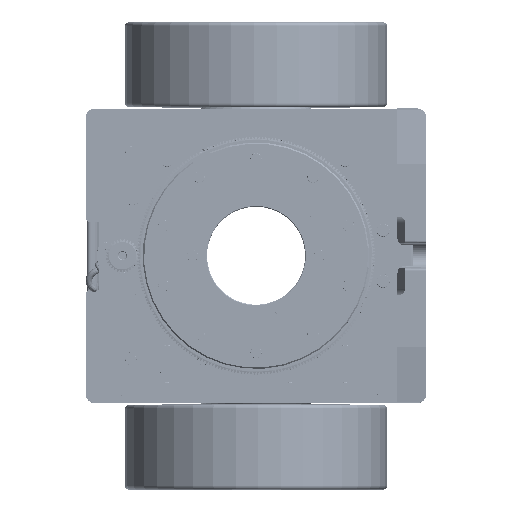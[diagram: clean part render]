
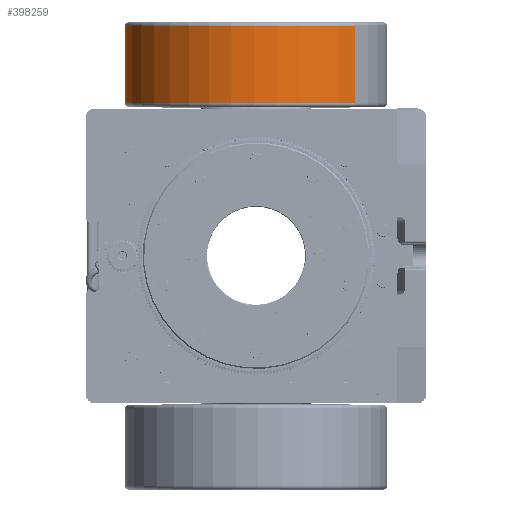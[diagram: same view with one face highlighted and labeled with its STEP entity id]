
A CAD part, top view. The second image highlights one B-rep face of the part: STEP entity #398259.
In plain terms, the highlighted cylindrical face has radius 100 mm (diameter 200 mm), a partial arc.
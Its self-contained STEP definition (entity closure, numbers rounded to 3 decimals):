
#8394 = EDGE_CURVE ( 'NONE', #394673, #168742, #360361, .T. ) ;
#19675 = EDGE_CURVE ( 'NONE', #183932, #439902, #202518, .T. ) ;
#22434 = DIRECTION ( 'NONE',  ( 0., -1., 0. ) ) ;
#31935 = VECTOR ( 'NONE', #140143, 1000. ) ;
#37398 = EDGE_LOOP ( 'NONE', ( #302389, #432164, #327438, #393708 ) ) ;
#58660 = EDGE_CURVE ( 'NONE', #394673, #183932, #99475, .T. ) ;
#61410 = CARTESIAN_POINT ( 'NONE',  ( -67.591, 203.467, -23. ) ) ;
#65970 = CARTESIAN_POINT ( 'NONE',  ( -67.591, 489.309, -23. ) ) ;
#74016 = EDGE_CURVE ( 'NONE', #439902, #168742, #260754, .T. ) ;
#99475 = CIRCLE ( 'NONE', #292841, 100. ) ;
#131747 = DIRECTION ( 'NONE',  ( 0., -1., 0. ) ) ;
#140143 = DIRECTION ( 'NONE',  ( 0., -1., 0. ) ) ;
#145781 = CARTESIAN_POINT ( 'NONE',  ( 7.88, 144.467, 42.606 ) ) ;
#162303 = AXIS2_PLACEMENT_3D ( 'NONE', #65970, #22434, #431522 ) ;
#168626 = DIRECTION ( 'NONE',  ( 0., -1., 0. ) ) ;
#168742 = VERTEX_POINT ( 'NONE', #145781 ) ;
#183932 = VERTEX_POINT ( 'NONE', #236652 ) ;
#202518 = LINE ( 'NONE', #463845, #362839 ) ;
#216563 = CARTESIAN_POINT ( 'NONE',  ( -143.062, 144.467, -88.606 ) ) ;
#236652 = CARTESIAN_POINT ( 'NONE',  ( -143.062, 203.467, -88.606 ) ) ;
#254819 = CYLINDRICAL_SURFACE ( 'NONE', #162303, 100. ) ;
#260754 = CIRCLE ( 'NONE', #399934, 100. ) ;
#292841 = AXIS2_PLACEMENT_3D ( 'NONE', #61410, #131747, #361491 ) ;
#302389 = ORIENTED_EDGE ( 'NONE', *, *, #8394, .F. ) ;
#309531 = DIRECTION ( 'NONE',  ( -0.755, 0., -0.656 ) ) ;
#324148 = CARTESIAN_POINT ( 'NONE',  ( 7.88, 489.309, 42.606 ) ) ;
#327438 = ORIENTED_EDGE ( 'NONE', *, *, #19675, .T. ) ;
#360361 = LINE ( 'NONE', #324148, #31935 ) ;
#361491 = DIRECTION ( 'NONE',  ( -0.755, 0., -0.656 ) ) ;
#362839 = VECTOR ( 'NONE', #168626, 1000. ) ;
#386820 = CARTESIAN_POINT ( 'NONE',  ( -67.591, 144.467, -23. ) ) ;
#389180 = DIRECTION ( 'NONE',  ( 0., 1., 0. ) ) ;
#393708 = ORIENTED_EDGE ( 'NONE', *, *, #74016, .T. ) ;
#394673 = VERTEX_POINT ( 'NONE', #459365 ) ;
#398259 = ADVANCED_FACE ( 'NONE', ( #399930 ), #254819, .T. ) ;
#399930 = FACE_OUTER_BOUND ( 'NONE', #37398, .T. ) ;
#399934 = AXIS2_PLACEMENT_3D ( 'NONE', #386820, #389180, #309531 ) ;
#431522 = DIRECTION ( 'NONE',  ( -0.755, 0., -0.656 ) ) ;
#432164 = ORIENTED_EDGE ( 'NONE', *, *, #58660, .T. ) ;
#439902 = VERTEX_POINT ( 'NONE', #216563 ) ;
#459365 = CARTESIAN_POINT ( 'NONE',  ( 7.88, 203.467, 42.606 ) ) ;
#463845 = CARTESIAN_POINT ( 'NONE',  ( -143.062, 489.309, -88.606 ) ) ;
